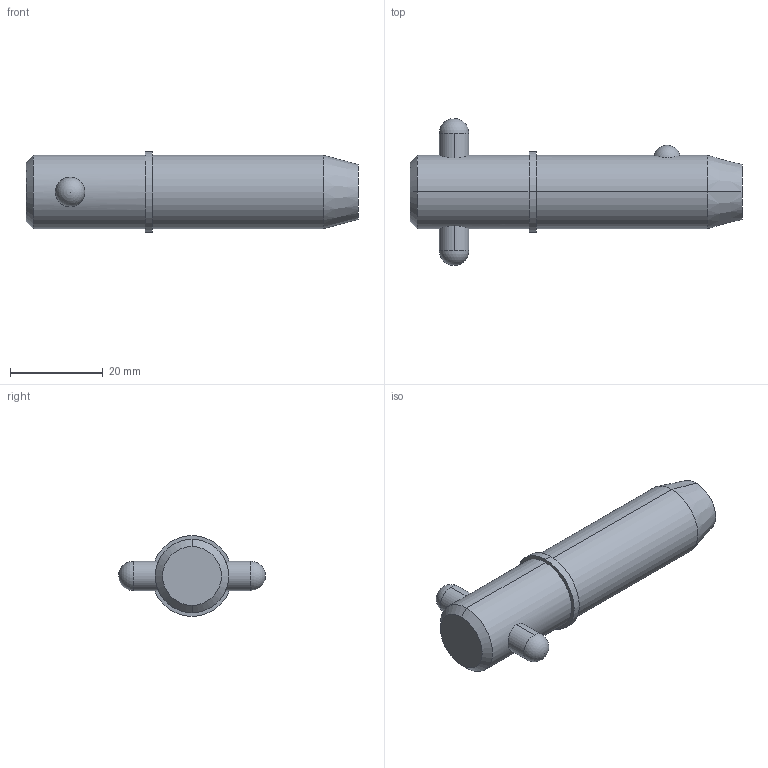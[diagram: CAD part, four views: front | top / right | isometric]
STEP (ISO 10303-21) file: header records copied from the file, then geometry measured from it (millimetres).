
FILE_DESCRIPTION (( 'STEP AP203' ), '1' );
FILE_NAME ('33018.W6210.step', '2024-11-19T17:17:59', ( '' ), ( '' ), 'SwSTEP 2.0', 'SolidWorks 2019', '' );
FILE_SCHEMA (( 'CONFIG_CONTROL_DESIGN' ));
Length unit declared in the file: millimetre
Products named in the file (3): Part1_33018.W6210; 33018.W6210; Part2_33018.W6210
Assembly tree (2 placements, depth 2):
  33018.W6210
    Part1_33018.W6210
    Part2_33018.W6210
Bounding box: 71.76 x 31.75 x 17.47 mm (x, y, z)
Volume: 14365.3 mm3; surface area: 4786.6 mm2
Topology: 2 solids, 2 shells, 22 faces, 47 edges, 30 vertices
Faces by surface type: cylinder 10, sphere 4, cone 4, plane 4
Entity records: 1047 total; most frequent: CARTESIAN_POINT 290, DIRECTION 110, ORIENTED_EDGE 82, AXIS2_PLACEMENT_3D 48, EDGE_CURVE 41, EDGE_LOOP 27, PERSON_AND_ORGANIZATION 26, VERTEX_POINT 26
